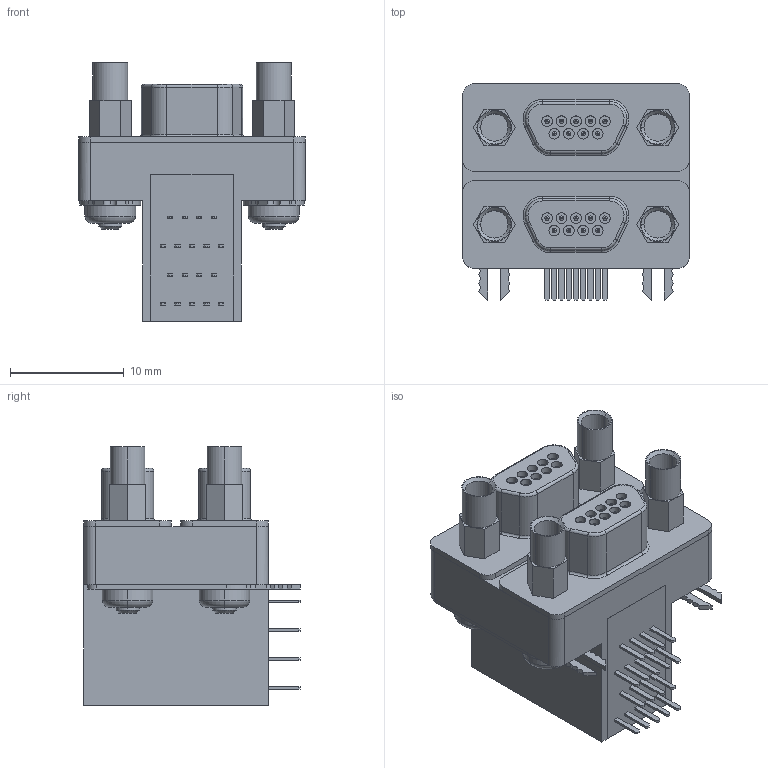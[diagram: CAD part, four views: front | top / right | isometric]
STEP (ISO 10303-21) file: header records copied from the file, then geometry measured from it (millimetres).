
FILE_DESCRIPTION (( 'STEP AP214' ), '1' );
FILE_NAME ('382-009-112L565.STEP', '2011-11-18T16:25:09', ( 'Covidien' ), ( 'Covidien' ), 'SwSTEP 2.0', 'SolidWorks 2010', '' );
FILE_SCHEMA (( 'AUTOMOTIVE_DESIGN' ));
Length unit declared in the file: inch
Products named in the file (1): 382-009-112L565
Bounding box: 19.91 x 19 x 22.71 mm (x, y, z)
Volume: 2724.2 mm3; surface area: 3595.7 mm2
Topology: 3 solids, 3 shells, 678 faces, 1680 edges, 1084 vertices
Faces by surface type: plane 440, cylinder 158, torus 64, cone 16
Entity records: 25617 total; most frequent: DIRECTION 3492, CARTESIAN_POINT 3443, ORIENTED_EDGE 3360, EDGE_CURVE 1680, VECTOR 1226, LINE 1226, AXIS2_PLACEMENT_3D 1133, VERTEX_POINT 1084
